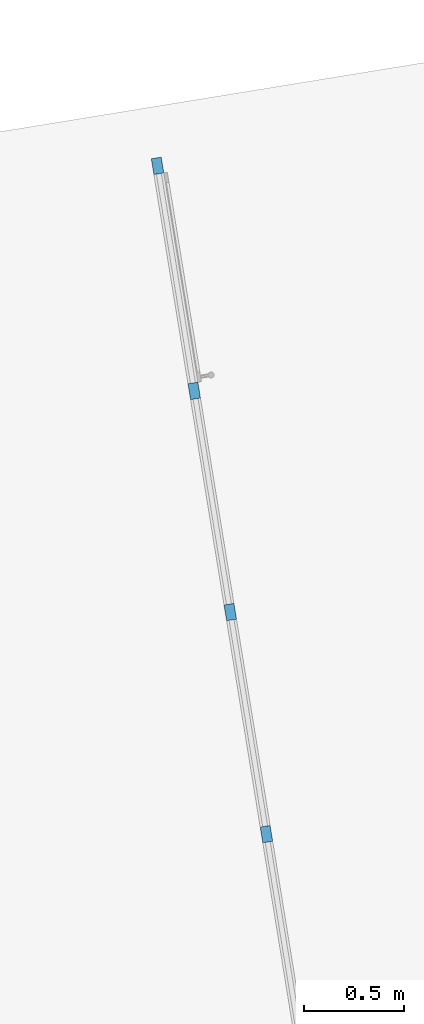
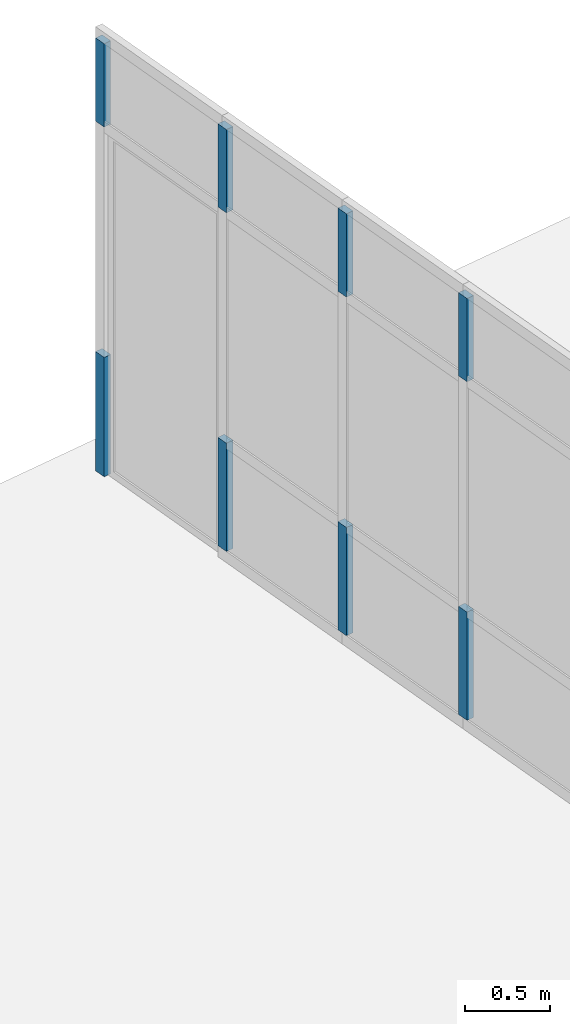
# One storey, part 6 of 18: 8 members, 1 element without a shape of its own.
"""IFC2X3 building model written with IfcOpenShell, lengths in millimetres."""

from ifc_helpers import new_model, entity, si_unit, converted_unit, derived_unit, direction, frame, origin, origin_with_axes, origin_2d_with_axis, place, context, subcontext, project, spatial, rectangle, extrude, source, transform, mapped, material, type_object, element, aggregate, save


model = new_model("IFC2X3")

# Units and contexts
model_context = context("Model", 3, precision=0.01, world=origin(), true_north=direction((6.12323399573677e-17, 1.0)))
plan_context = context("Plan", 3, precision=1e-05, world=origin_with_axes())
body_context = subcontext(model_context, "Body", "Model", "MODEL_VIEW")
ifc_project = project(units=[converted_unit("PLANEANGLEUNIT", "DEGREE", entity("IfcPositiveLengthMeasure", 0.0174532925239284), si_unit("PLANEANGLEUNIT", "RADIAN"), dimensions=[0, 0, 0, 0, 0, 0, 0]), si_unit("AREAUNIT", "SQUARE_METRE"), si_unit("LENGTHUNIT", "METRE", prefix="MILLI"), si_unit("MASSUNIT", "GRAM", prefix="KILO"), si_unit("POWERUNIT", "WATT"), si_unit("PRESSUREUNIT", "PASCAL", prefix="KILO"), si_unit("FORCEUNIT", "NEWTON", prefix="KILO"), si_unit("ELECTRICVOLTAGEUNIT", "VOLT"), si_unit("ELECTRICCURRENTUNIT", "AMPERE"), si_unit("THERMODYNAMICTEMPERATUREUNIT", "DEGREE_CELSIUS"), si_unit("TIMEUNIT", "SECOND"), si_unit("VOLUMEUNIT", "CUBIC_METRE"), derived_unit("LINEARVELOCITYUNIT", [(si_unit("LENGTHUNIT", "METRE"), 1), (si_unit("TIMEUNIT", "SECOND"), -1)]), derived_unit("VOLUMETRICFLOWRATEUNIT", [(si_unit("VOLUMEUNIT", "CUBIC_METRE"), 1), (si_unit("TIMEUNIT", "SECOND"), -1)]), derived_unit("THERMALTRANSMITTANCEUNIT", [(si_unit("POWERUNIT", "WATT"), 1), (si_unit("THERMODYNAMICTEMPERATUREUNIT", "KELVIN"), -1), (si_unit("AREAUNIT", "SQUARE_METRE"), -1)]), derived_unit("SOUNDPRESSUREUNIT", [(si_unit("PRESSUREUNIT", "PASCAL"), 1)])], contexts=[model_context, plan_context])

# Site, building, storey
site_placement = place(None, frame((-305029.896016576, -232111.759730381, 0.0), z_axis=(0.0, 0.0, 1.0), x_axis=(-0.160806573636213, 0.986985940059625, 0.0)))
site = spatial("IfcSite", under=ifc_project, at=site_placement, Name="Default", CompositionType="ELEMENT")
building_placement = place(site_placement, frame((0.0, 0.0, 0.0), z_axis=(0.0, 0.0, 1.0), x_axis=(1.0, -2.77555756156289e-17, 0.0)))
building = spatial("IfcBuilding", under=site, at=building_placement, Name="br001-a-200-1-0001", CompositionType="ELEMENT")
storey_placement = place(building_placement, frame((0.0, 0.0, 55500.0), z_axis=(0.0, 0.0, 1.0), x_axis=(1.0, -2.77555756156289e-17, 0.0)))
storey = spatial("IfcBuildingStorey", under=building, at=storey_placement, Name="H02-Nivå F-3,5 m", CompositionType="ELEMENT", Elevation=55500.0)

# Curtain wall, members
curtain_wall_type = type_object("IfcCurtainWallType", Name="Curtain Wall:A243 Innvendig glassvegg", PredefinedType="NOTDEFINED")
curtain_wall_placement = place(storey_placement, frame((0.0, 0.0, -55500.0), z_axis=(0.0, 0.0, 1.0), x_axis=(1.0, -2.77555756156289e-17, 0.0)))
curtain_wall = element("IfcCurtainWall", 1, at=curtain_wall_placement, inside=storey, type_object=curtain_wall_type, Name="Curtain Wall:A243 Innvendig glassvegg", ObjectType="Curtain Wall:A243 Innvendig glassvegg")
ifc_material = material(Name="Metal - Aluminium")
member_type_1 = type_object("IfcMemberType", Name="Rectangular Mullion:80 x 50  mm", PredefinedType="MULLION", material=ifc_material)
shared_shape_1 = source(origin(), body_context, "Body", "SweptSolid", [
    extrude(rectangle(XDim=80.0, YDim=50.0, at=origin_2d_with_axis()), frame((-40.0, 0.0, -600.0), z_axis=(0.0, 0.0, 1.0), x_axis=(-1.0, 0.0, 0.0)), (0.0, 0.0, 1.0), 600.000000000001),
])
member_1_placement = place(curtain_wall_placement, frame((1196423.59858442, -728835.878367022, 58020.0), z_axis=(0.0, 0.0, -1.0), x_axis=(1.0, -2.77555756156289e-17, 0.0)))
member_1 = element("IfcMember", 2, at=member_1_placement, type_object=member_type_1, material=ifc_material, Name="Rectangular Mullion:80 x 50  mm", ObjectType="Rectangular Mullion:80 x 50  mm", context=body_context, shape_type="MappedRepresentation", body=[
    mapped(shared_shape_1, transform((0.0, 0.0, 0.0), scale=1.0)),
])
member_type_2 = type_object("IfcMemberType", Name="Rectangular Mullion:80 x 50  mm", PredefinedType="MULLION", material=ifc_material)
shared_shape_2 = source(origin(), body_context, "Body", "SweptSolid", [
    extrude(rectangle(XDim=80.0, YDim=50.0, at=origin_2d_with_axis()), frame((-40.0, 0.0, -860.0), z_axis=(0.0, 0.0, 1.0), x_axis=(-1.0, 0.0, 0.0)), (0.0, 0.0, 1.0), 860.000000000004),
])
member_2_placement = place(curtain_wall_placement, frame((1196423.59858442, -728835.878367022, 55500.0), z_axis=(0.0, 0.0, -1.0), x_axis=(1.0, -2.77555756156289e-17, 0.0)))
member_2 = element("IfcMember", 3, at=member_2_placement, type_object=member_type_2, material=ifc_material, Name="Rectangular Mullion:80 x 50  mm", ObjectType="Rectangular Mullion:80 x 50  mm", context=body_context, shape_type="MappedRepresentation", body=[
    mapped(shared_shape_2, transform((0.0, 0.0, 0.0), scale=1.0)),
])
member_type_3 = type_object("IfcMemberType", Name="Rectangular Mullion:80 x 50  mm", PredefinedType="MULLION", material=ifc_material)
shared_shape_3 = source(origin(), body_context, "Body", "SweptSolid", [
    extrude(rectangle(XDim=80.0, YDim=50.0, at=origin_2d_with_axis()), frame((0.0, 0.0, -780.0), z_axis=(0.0, 0.0, 1.0), x_axis=(-1.0, 0.0, 0.0)), (0.0, 0.0, 1.0), 780.000000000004),
])
member_3_placement = place(curtain_wall_placement, frame((1195243.59858442, -728835.878367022, 55580.0), z_axis=(0.0, 0.0, -1.0), x_axis=(1.0, -2.77555756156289e-17, 0.0)))
member_3 = element("IfcMember", 4, at=member_3_placement, type_object=member_type_3, material=ifc_material, Name="Rectangular Mullion:80 x 50  mm", ObjectType="Rectangular Mullion:80 x 50  mm", context=body_context, shape_type="MappedRepresentation", body=[
    mapped(shared_shape_3, transform((0.0, 0.0, 0.0), scale=1.0)),
])
member_4_placement = place(curtain_wall_placement, frame((1194123.59858442, -728835.878367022, 55580.0), z_axis=(0.0, 0.0, -1.0), x_axis=(1.0, -2.77555756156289e-17, 0.0)))
member_4 = element("IfcMember", 5, at=member_4_placement, type_object=member_type_3, material=ifc_material, Name="Rectangular Mullion:80 x 50  mm", ObjectType="Rectangular Mullion:80 x 50  mm", context=body_context, shape_type="MappedRepresentation", body=[
    mapped(shared_shape_3, transform((0.0, 0.0, 0.0), scale=1.0)),
])
member_5_placement = place(curtain_wall_placement, frame((1192998.59858442, -728835.878367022, 55580.0), z_axis=(0.0, 0.0, -1.0), x_axis=(1.0, -2.77555756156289e-17, 0.0)))
member_5 = element("IfcMember", 6, at=member_5_placement, type_object=member_type_3, material=ifc_material, Name="Rectangular Mullion:80 x 50  mm", ObjectType="Rectangular Mullion:80 x 50  mm", context=body_context, shape_type="MappedRepresentation", body=[
    mapped(shared_shape_3, transform((0.0, 0.0, 0.0), scale=1.0)),
])
member_type_4 = type_object("IfcMemberType", Name="Rectangular Mullion:80 x 50  mm", PredefinedType="MULLION", material=ifc_material)
shared_shape_4 = source(origin(), body_context, "Body", "SweptSolid", [
    extrude(rectangle(XDim=80.0, YDim=50.0, at=origin_2d_with_axis()), frame((0.0, 0.0, -600.0), z_axis=(0.0, 0.0, 1.0), x_axis=(-1.0, 0.0, 0.0)), (0.0, 0.0, 1.0), 600.000000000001),
])
member_6_placement = place(curtain_wall_placement, frame((1195243.59858442, -728835.878367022, 58020.0), z_axis=(0.0, 0.0, -1.0), x_axis=(1.0, -2.77555756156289e-17, 0.0)))
member_6 = element("IfcMember", 7, at=member_6_placement, type_object=member_type_4, material=ifc_material, Name="Rectangular Mullion:80 x 50  mm", ObjectType="Rectangular Mullion:80 x 50  mm", context=body_context, shape_type="MappedRepresentation", body=[
    mapped(shared_shape_4, transform((0.0, 0.0, 0.0), scale=1.0)),
])
member_7_placement = place(curtain_wall_placement, frame((1194123.59858442, -728835.878367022, 58020.0), z_axis=(0.0, 0.0, -1.0), x_axis=(1.0, -2.77555756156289e-17, 0.0)))
member_7 = element("IfcMember", 8, at=member_7_placement, type_object=member_type_4, material=ifc_material, Name="Rectangular Mullion:80 x 50  mm", ObjectType="Rectangular Mullion:80 x 50  mm", context=body_context, shape_type="MappedRepresentation", body=[
    mapped(shared_shape_4, transform((0.0, 0.0, 0.0), scale=1.0)),
])
member_8_placement = place(curtain_wall_placement, frame((1192998.59858442, -728835.878367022, 58020.0), z_axis=(0.0, 0.0, -1.0), x_axis=(1.0, -2.77555756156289e-17, 0.0)))
member_8 = element("IfcMember", 9, at=member_8_placement, type_object=member_type_4, material=ifc_material, Name="Rectangular Mullion:80 x 50  mm", ObjectType="Rectangular Mullion:80 x 50  mm", context=body_context, shape_type="MappedRepresentation", body=[
    mapped(shared_shape_4, transform((0.0, 0.0, 0.0), scale=1.0)),
])
aggregate(curtain_wall, [member_2, member_3, member_4, member_5, member_1, member_6, member_7, member_8])

save(model, "model.ifc")
